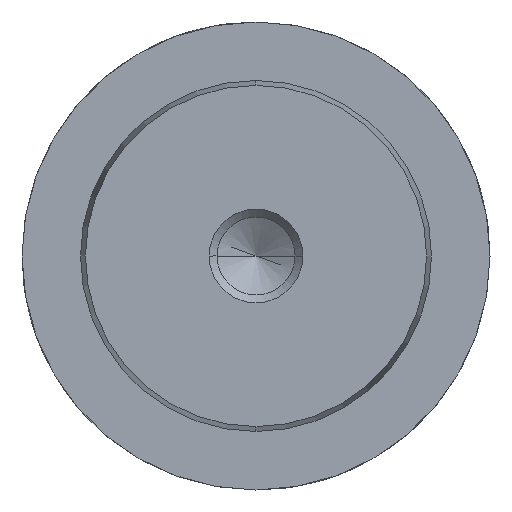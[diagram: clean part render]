
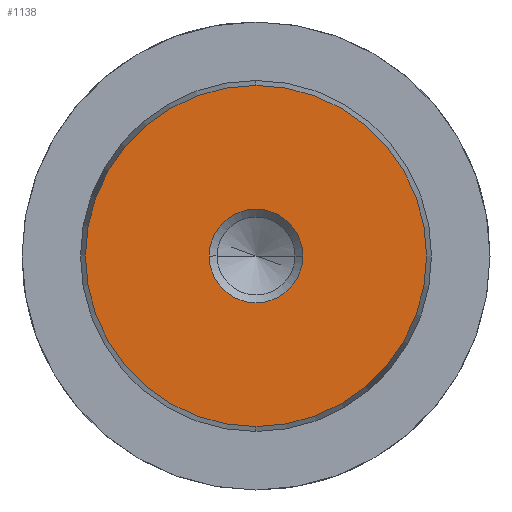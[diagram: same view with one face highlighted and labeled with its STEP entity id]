
A CAD part, left-side view. The second image highlights one B-rep face of the part: STEP entity #1138.
In plain terms, the highlighted planar face has unit normal (-1, 0, 0).
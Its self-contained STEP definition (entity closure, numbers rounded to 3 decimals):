
#1052=CARTESIAN_POINT('Vertex',(0.,0.,-14.578)) ;
#1055=CARTESIAN_POINT('Axis2P3D Location',(0.,0.,0.)) ;
#1059=CARTESIAN_POINT('Vertex',(0.,14.578,0.)) ;
#1062=CARTESIAN_POINT('Axis2P3D Location',(0.,0.,0.)) ;
#1066=CARTESIAN_POINT('Vertex',(0.,0.,14.578)) ;
#1088=CARTESIAN_POINT('Axis2P3D Location',(0.,0.,0.)) ;
#1092=CARTESIAN_POINT('Vertex',(0.,-14.578,0.)) ;
#1095=CARTESIAN_POINT('Axis2P3D Location',(0.,0.,0.)) ;
#1109=CARTESIAN_POINT('Axis2P3D Location',(0.,0.,0.)) ;
#1120=CARTESIAN_POINT('Axis2P3D Location',(0.,0.,0.)) ;
#1124=CARTESIAN_POINT('Vertex',(0.,4.,0.)) ;
#1126=CARTESIAN_POINT('Vertex',(0.,-4.,0.)) ;
#1129=CARTESIAN_POINT('Axis2P3D Location',(0.,0.,0.)) ;
#1056=DIRECTION('Axis2P3D Direction',(1.,-0.,0.)) ;
#1063=DIRECTION('Axis2P3D Direction',(1.,-0.,0.)) ;
#1089=DIRECTION('Axis2P3D Direction',(1.,0.,-0.)) ;
#1096=DIRECTION('Axis2P3D Direction',(1.,0.,-0.)) ;
#1110=DIRECTION('Axis2P3D Direction',(1.,0.,-0.)) ;
#1111=DIRECTION('Axis2P3D XDirection',(-0.,0.,-1.)) ;
#1121=DIRECTION('Axis2P3D Direction',(1.,0.,-0.)) ;
#1130=DIRECTION('Axis2P3D Direction',(1.,0.,-0.)) ;
#1057=AXIS2_PLACEMENT_3D('Circle Axis2P3D',#1055,#1056,$) ;
#1064=AXIS2_PLACEMENT_3D('Circle Axis2P3D',#1062,#1063,$) ;
#1090=AXIS2_PLACEMENT_3D('Circle Axis2P3D',#1088,#1089,$) ;
#1097=AXIS2_PLACEMENT_3D('Circle Axis2P3D',#1095,#1096,$) ;
#1112=AXIS2_PLACEMENT_3D('Plane Axis2P3D',#1109,#1110,#1111) ;
#1122=AXIS2_PLACEMENT_3D('Circle Axis2P3D',#1120,#1121,$) ;
#1131=AXIS2_PLACEMENT_3D('Circle Axis2P3D',#1129,#1130,$) ;
#1115=ORIENTED_EDGE('',*,*,#1061,.F.) ;
#1116=ORIENTED_EDGE('',*,*,#1099,.F.) ;
#1117=ORIENTED_EDGE('',*,*,#1094,.F.) ;
#1118=ORIENTED_EDGE('',*,*,#1068,.F.) ;
#1135=ORIENTED_EDGE('',*,*,#1128,.T.) ;
#1136=ORIENTED_EDGE('',*,*,#1133,.T.) ;
#1137=FACE_BOUND('',#1134,.T.) ;
#1138=ADVANCED_FACE('719-30x224',(#1119,#1137),#1113,.F.) ;
#1058=CIRCLE('generated circle',#1057,14.578) ;
#1065=CIRCLE('generated circle',#1064,14.578) ;
#1091=CIRCLE('generated circle',#1090,14.578) ;
#1098=CIRCLE('generated circle',#1097,14.578) ;
#1123=CIRCLE('generated circle',#1122,4.) ;
#1132=CIRCLE('generated circle',#1131,4.) ;
#1061=EDGE_CURVE('',#1053,#1060,#1058,.T.) ;
#1068=EDGE_CURVE('',#1060,#1067,#1065,.T.) ;
#1094=EDGE_CURVE('',#1067,#1093,#1091,.T.) ;
#1099=EDGE_CURVE('',#1093,#1053,#1098,.T.) ;
#1128=EDGE_CURVE('',#1125,#1127,#1123,.T.) ;
#1133=EDGE_CURVE('',#1127,#1125,#1132,.T.) ;
#1114=EDGE_LOOP('',(#1115,#1116,#1117,#1118)) ;
#1134=EDGE_LOOP('',(#1135,#1136)) ;
#1119=FACE_OUTER_BOUND('',#1114,.T.) ;
#1113=PLANE('Plane',#1112) ;
#1053=VERTEX_POINT('',#1052) ;
#1060=VERTEX_POINT('',#1059) ;
#1067=VERTEX_POINT('',#1066) ;
#1093=VERTEX_POINT('',#1092) ;
#1125=VERTEX_POINT('',#1124) ;
#1127=VERTEX_POINT('',#1126) ;
